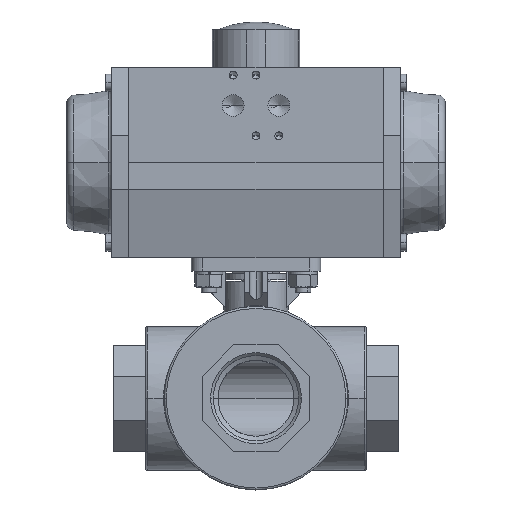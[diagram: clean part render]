
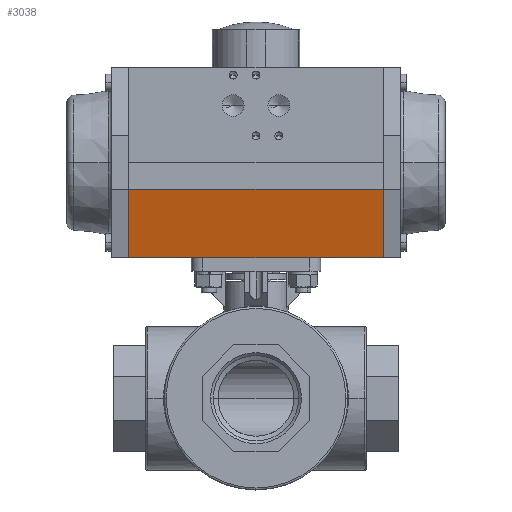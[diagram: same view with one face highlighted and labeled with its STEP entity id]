
A CAD part, top view. The second image highlights one B-rep face of the part: STEP entity #3038.
In plain terms, the highlighted planar face has unit normal (0, -0.255, 0.967) as drawn and (0.967, -0.255, 0) by its records, which use the part's own axes.
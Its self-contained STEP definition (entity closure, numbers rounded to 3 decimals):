
#1660 = EDGE_CURVE ( 'NONE', #2188, #8885, #13026, .T. ) ;
#2126 = DIRECTION ( 'NONE',  ( 0., 0., 1. ) ) ;
#2188 = VERTEX_POINT ( 'NONE', #8552 ) ;
#2215 = DIRECTION ( 'NONE',  ( 0.967, -0.255, 0. ) ) ;
#3038 = ADVANCED_FACE ( 'NONE', ( #16698 ), #5402, .T. ) ;
#3429 = DIRECTION ( 'NONE',  ( 0.255, 0.967, 0. ) ) ;
#3530 = CARTESIAN_POINT ( 'NONE',  ( 42.5, -14., 67. ) ) ;
#3595 = ORIENTED_EDGE ( 'NONE', *, *, #18183, .T. ) ;
#4195 = AXIS2_PLACEMENT_3D ( 'NONE', #11868, #2215, #13485 ) ;
#4205 = CARTESIAN_POINT ( 'NONE',  ( 42.5, -14., -67. ) ) ;
#4590 = LINE ( 'NONE', #18566, #13168 ) ;
#4954 = EDGE_CURVE ( 'NONE', #17090, #9944, #19244, .T. ) ;
#5402 = PLANE ( 'NONE',  #4195 ) ;
#6405 = VECTOR ( 'NONE', #17255, 1000. ) ;
#8491 = ORIENTED_EDGE ( 'NONE', *, *, #12978, .F. ) ;
#8552 = CARTESIAN_POINT ( 'NONE',  ( 33., -50., -67. ) ) ;
#8719 = VECTOR ( 'NONE', #2126, 1000. ) ;
#8847 = ORIENTED_EDGE ( 'NONE', *, *, #4954, .T. ) ;
#8885 = VERTEX_POINT ( 'NONE', #20103 ) ;
#9944 = VERTEX_POINT ( 'NONE', #3530 ) ;
#10470 = DIRECTION ( 'NONE',  ( 0.255, 0.967, 0. ) ) ;
#11868 = CARTESIAN_POINT ( 'NONE',  ( 33., -50., -67. ) ) ;
#12205 = VECTOR ( 'NONE', #3429, 1000. ) ;
#12353 = CARTESIAN_POINT ( 'NONE',  ( 42.5, -14., -67. ) ) ;
#12819 = EDGE_LOOP ( 'NONE', ( #8847, #8491, #16758, #3595 ) ) ;
#12978 = EDGE_CURVE ( 'NONE', #8885, #9944, #16467, .T. ) ;
#13026 = LINE ( 'NONE', #16536, #8719 ) ;
#13168 = VECTOR ( 'NONE', #10470, 1000. ) ;
#13485 = DIRECTION ( 'NONE',  ( 0.255, 0.967, 0. ) ) ;
#16368 = CARTESIAN_POINT ( 'NONE',  ( 33., -50., 67. ) ) ;
#16467 = LINE ( 'NONE', #16368, #12205 ) ;
#16536 = CARTESIAN_POINT ( 'NONE',  ( 33., -50., -67. ) ) ;
#16698 = FACE_OUTER_BOUND ( 'NONE', #12819, .T. ) ;
#16758 = ORIENTED_EDGE ( 'NONE', *, *, #1660, .F. ) ;
#17090 = VERTEX_POINT ( 'NONE', #4205 ) ;
#17255 = DIRECTION ( 'NONE',  ( 0., 0., 1. ) ) ;
#18183 = EDGE_CURVE ( 'NONE', #2188, #17090, #4590, .T. ) ;
#18566 = CARTESIAN_POINT ( 'NONE',  ( 33., -50., -67. ) ) ;
#19244 = LINE ( 'NONE', #12353, #6405 ) ;
#20103 = CARTESIAN_POINT ( 'NONE',  ( 33., -50., 67. ) ) ;
